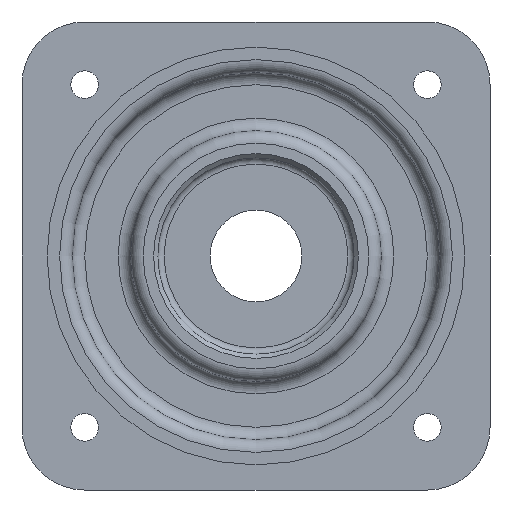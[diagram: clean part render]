
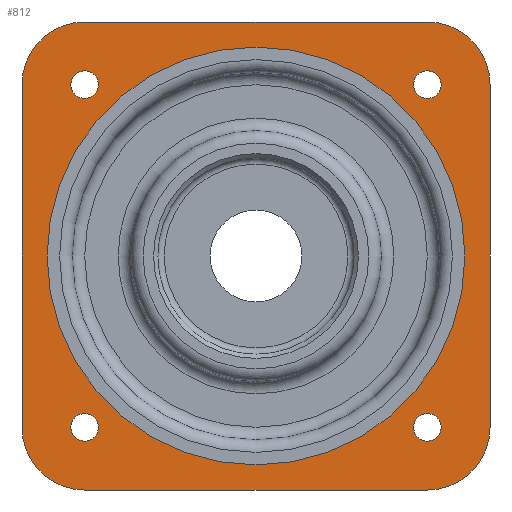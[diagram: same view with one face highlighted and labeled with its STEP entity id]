
A CAD part, left-side view. The second image highlights one B-rep face of the part: STEP entity #812.
In plain terms, the highlighted planar face has unit normal (-1, 0, 0).
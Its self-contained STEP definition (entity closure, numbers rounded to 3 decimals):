
#51=LINE('',#1412,#88);
#54=LINE('',#1420,#91);
#55=LINE('',#1426,#92);
#58=LINE('',#1434,#95);
#88=VECTOR('',#1137,10.);
#91=VECTOR('',#1146,10.);
#92=VECTOR('',#1153,10.);
#95=VECTOR('',#1162,10.);
#136=FACE_BOUND('',#242,.T.);
#137=FACE_BOUND('',#243,.T.);
#138=FACE_BOUND('',#244,.T.);
#139=FACE_BOUND('',#245,.T.);
#140=FACE_BOUND('',#246,.T.);
#178=FACE_OUTER_BOUND('',#241,.T.);
#241=EDGE_LOOP('',(#666,#667,#668,#669,#670,#671,#672,#673));
#242=EDGE_LOOP('',(#674));
#243=EDGE_LOOP('',(#675));
#244=EDGE_LOOP('',(#676));
#245=EDGE_LOOP('',(#677));
#246=EDGE_LOOP('',(#678));
#275=CIRCLE('',#862,3.3);
#279=CIRCLE('',#869,3.3);
#283=CIRCLE('',#876,3.3);
#287=CIRCLE('',#883,3.3);
#310=CIRCLE('',#918,15.);
#311=CIRCLE('',#921,15.);
#313=CIRCLE('',#927,15.);
#314=CIRCLE('',#930,15.);
#315=CIRCLE('',#932,50.);
#352=VERTEX_POINT('',#1296);
#356=VERTEX_POINT('',#1309);
#360=VERTEX_POINT('',#1322);
#364=VERTEX_POINT('',#1335);
#387=VERTEX_POINT('',#1404);
#388=VERTEX_POINT('',#1406);
#389=VERTEX_POINT('',#1410);
#390=VERTEX_POINT('',#1414);
#391=VERTEX_POINT('',#1418);
#393=VERTEX_POINT('',#1425);
#394=VERTEX_POINT('',#1429);
#395=VERTEX_POINT('',#1433);
#396=VERTEX_POINT('',#1439);
#427=EDGE_CURVE('',#352,#352,#275,.T.);
#433=EDGE_CURVE('',#356,#356,#279,.T.);
#439=EDGE_CURVE('',#360,#360,#283,.T.);
#445=EDGE_CURVE('',#364,#364,#287,.T.);
#479=EDGE_CURVE('',#388,#387,#310,.T.);
#482=EDGE_CURVE('',#387,#389,#51,.T.);
#484=EDGE_CURVE('',#389,#390,#311,.T.);
#486=EDGE_CURVE('',#390,#391,#54,.T.);
#488=EDGE_CURVE('',#393,#388,#55,.T.);
#490=EDGE_CURVE('',#394,#393,#313,.T.);
#492=EDGE_CURVE('',#395,#394,#58,.T.);
#494=EDGE_CURVE('',#391,#395,#314,.T.);
#495=EDGE_CURVE('',#396,#396,#315,.T.);
#666=ORIENTED_EDGE('',*,*,#486,.T.);
#667=ORIENTED_EDGE('',*,*,#494,.T.);
#668=ORIENTED_EDGE('',*,*,#492,.T.);
#669=ORIENTED_EDGE('',*,*,#490,.T.);
#670=ORIENTED_EDGE('',*,*,#488,.T.);
#671=ORIENTED_EDGE('',*,*,#479,.T.);
#672=ORIENTED_EDGE('',*,*,#482,.T.);
#673=ORIENTED_EDGE('',*,*,#484,.T.);
#674=ORIENTED_EDGE('',*,*,#427,.T.);
#675=ORIENTED_EDGE('',*,*,#433,.T.);
#676=ORIENTED_EDGE('',*,*,#439,.T.);
#677=ORIENTED_EDGE('',*,*,#445,.T.);
#678=ORIENTED_EDGE('',*,*,#495,.F.);
#774=PLANE('',#931);
#812=ADVANCED_FACE('',(#178,#136,#137,#138,#139,#140),#774,.F.);
#862=AXIS2_PLACEMENT_3D('',#1298,#1002,#1003);
#869=AXIS2_PLACEMENT_3D('',#1311,#1018,#1019);
#876=AXIS2_PLACEMENT_3D('',#1324,#1034,#1035);
#883=AXIS2_PLACEMENT_3D('',#1337,#1050,#1051);
#918=AXIS2_PLACEMENT_3D('',#1407,#1131,#1132);
#921=AXIS2_PLACEMENT_3D('',#1416,#1141,#1142);
#927=AXIS2_PLACEMENT_3D('',#1430,#1157,#1158);
#930=AXIS2_PLACEMENT_3D('',#1437,#1166,#1167);
#931=AXIS2_PLACEMENT_3D('',#1438,#1168,#1169);
#932=AXIS2_PLACEMENT_3D('',#1440,#1170,#1171);
#1002=DIRECTION('center_axis',(1.,0.,0.));
#1003=DIRECTION('ref_axis',(0.,0.,-1.));
#1018=DIRECTION('center_axis',(1.,0.,0.));
#1019=DIRECTION('ref_axis',(0.,0.,-1.));
#1034=DIRECTION('center_axis',(1.,0.,0.));
#1035=DIRECTION('ref_axis',(0.,0.,-1.));
#1050=DIRECTION('center_axis',(1.,0.,0.));
#1051=DIRECTION('ref_axis',(0.,0.,-1.));
#1131=DIRECTION('center_axis',(-1.,0.,0.));
#1132=DIRECTION('ref_axis',(0.,0.,1.));
#1137=DIRECTION('',(0.,1.,0.));
#1141=DIRECTION('center_axis',(-1.,0.,0.));
#1142=DIRECTION('ref_axis',(0.,1.,0.));
#1146=DIRECTION('',(0.,0.,-1.));
#1153=DIRECTION('',(0.,0.,1.));
#1157=DIRECTION('center_axis',(-1.,0.,0.));
#1158=DIRECTION('ref_axis',(0.,-1.,0.));
#1162=DIRECTION('',(0.,-1.,0.));
#1166=DIRECTION('center_axis',(-1.,0.,0.));
#1167=DIRECTION('ref_axis',(0.,0.,-1.));
#1168=DIRECTION('center_axis',(1.,0.,0.));
#1169=DIRECTION('ref_axis',(0.,0.,-1.));
#1170=DIRECTION('center_axis',(-1.,0.,0.));
#1171=DIRECTION('ref_axis',(0.,1.,0.));
#1296=CARTESIAN_POINT('',(4.,-41.,44.3));
#1298=CARTESIAN_POINT('Origin',(4.,-41.,41.));
#1309=CARTESIAN_POINT('',(4.,-41.,-37.7));
#1311=CARTESIAN_POINT('Origin',(4.,-41.,-41.));
#1322=CARTESIAN_POINT('',(4.,41.,-37.7));
#1324=CARTESIAN_POINT('Origin',(4.,41.,-41.));
#1335=CARTESIAN_POINT('',(4.,41.,44.3));
#1337=CARTESIAN_POINT('Origin',(4.,41.,41.));
#1404=CARTESIAN_POINT('',(4.,-41.,56.));
#1406=CARTESIAN_POINT('',(4.,-56.,41.));
#1407=CARTESIAN_POINT('Origin',(4.,-41.,41.));
#1410=CARTESIAN_POINT('',(4.,41.,56.));
#1412=CARTESIAN_POINT('',(4.,41.,56.));
#1414=CARTESIAN_POINT('',(4.,56.,41.));
#1416=CARTESIAN_POINT('Origin',(4.,41.,41.));
#1418=CARTESIAN_POINT('',(4.,56.,-41.));
#1420=CARTESIAN_POINT('',(4.,56.,-41.));
#1425=CARTESIAN_POINT('',(4.,-56.,-41.));
#1426=CARTESIAN_POINT('',(4.,-56.,41.));
#1429=CARTESIAN_POINT('',(4.,-41.,-56.));
#1430=CARTESIAN_POINT('Origin',(4.,-41.,-41.));
#1433=CARTESIAN_POINT('',(4.,41.,-56.));
#1434=CARTESIAN_POINT('',(4.,-41.,-56.));
#1437=CARTESIAN_POINT('Origin',(4.,41.,-41.));
#1438=CARTESIAN_POINT('Origin',(4.,0.,0.));
#1439=CARTESIAN_POINT('',(4.,-50.,0.));
#1440=CARTESIAN_POINT('Origin',(4.,0.,0.));
